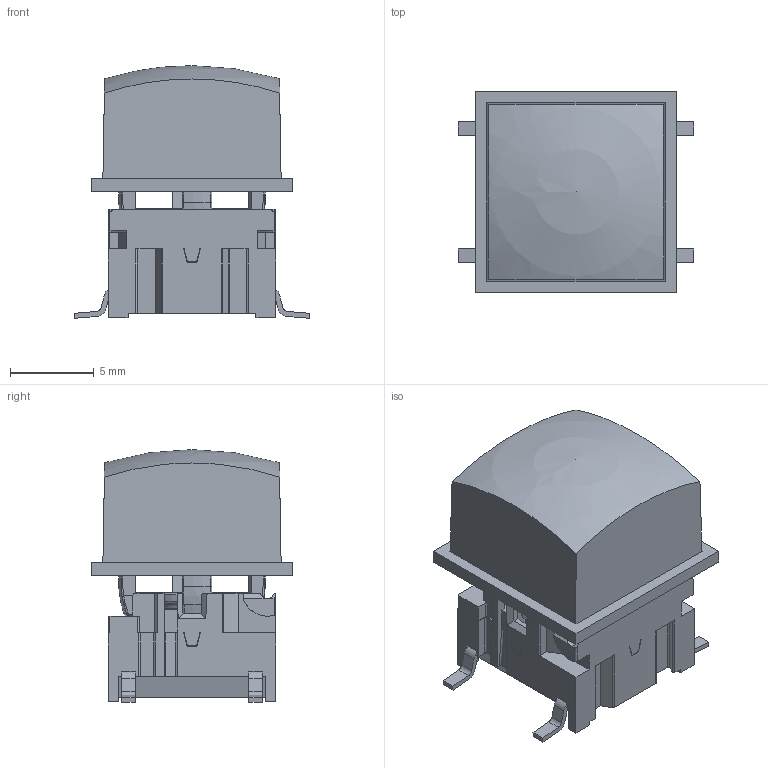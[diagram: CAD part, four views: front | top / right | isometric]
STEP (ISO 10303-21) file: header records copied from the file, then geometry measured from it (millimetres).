
FILE_DESCRIPTION(/* description */ (''),/* implementation_level */ '2;1');
FILE_NAME(/* name */ 'C:\Users\cgh.MEC\Desktop\Traceparts - 3D programserie\STEP filer\SMD\5GSH9+1TS.stp',/* time_stamp */ '2016-02-26T09:38:15+01:00',/* author */ ('cgh'),/* organization */ (''),/* preprocessor_version */ 'ST-DEVELOPER v15.2',/* originating_system */ 'Autodesk Inventor 2014',/* authorisation */ '');
FILE_SCHEMA (('AUTOMOTIVE_DESIGN { 1 0 10303 214 3 1 1 }'));
Length unit declared in the file: centimetre
Products named in the file (1): cgh
Bounding box: 14.05 x 12.06 x 15.1 mm (x, y, z)
Volume: 873 mm3; surface area: 1898.2 mm2
Topology: 1 solids, 1 shells, 1020 faces, 2900 edges, 1901 vertices
Faces by surface type: plane 633, cylinder 150, bspline 140, torus 56, cone 35, sphere 6
Full cylindrical faces by diameter (mm): 0.9 x1, 1 x3, 2.8 x1, 4.73 x1, 6.5 x1, 7.2 x1, 7.44 x1
Entity records: 36933 total; most frequent: CARTESIAN_POINT 10202, ORIENTED_EDGE 5744, DIRECTION 4797, EDGE_CURVE 2864, VERTEX_POINT 1889, LINE 1795, VECTOR 1795, AXIS2_PLACEMENT_3D 1501
